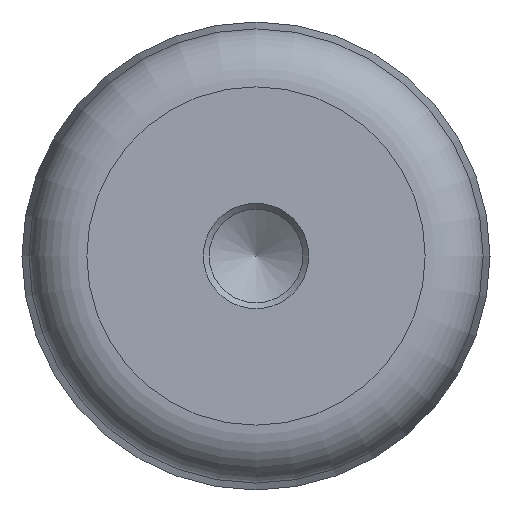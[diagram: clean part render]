
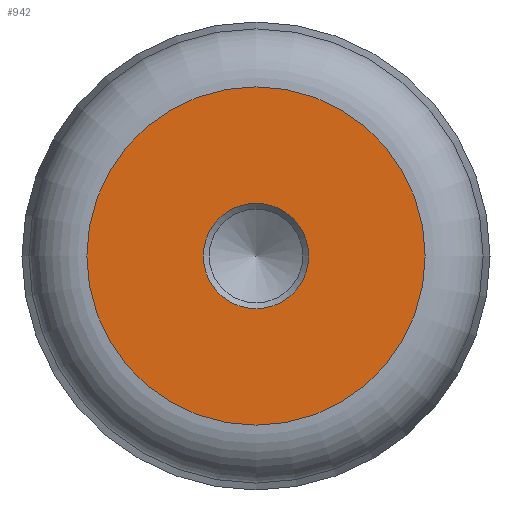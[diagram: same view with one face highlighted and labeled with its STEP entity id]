
A CAD part, left-side view. The second image highlights one B-rep face of the part: STEP entity #942.
In plain terms, the highlighted planar face has unit normal (-1, 0, 0).
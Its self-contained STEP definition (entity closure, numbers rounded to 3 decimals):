
#28=FACE_BOUND('',#149,.T.);
#35=PLANE('',#1035);
#87=FACE_OUTER_BOUND('',#148,.T.);
#148=EDGE_LOOP('',(#620));
#149=EDGE_LOOP('',(#621));
#319=CIRCLE('',#1027,4.5);
#324=CIRCLE('',#1034,14.459);
#387=VERTEX_POINT('',#1474);
#391=VERTEX_POINT('',#1486);
#470=EDGE_CURVE('',#387,#387,#319,.T.);
#477=EDGE_CURVE('',#391,#391,#324,.T.);
#620=ORIENTED_EDGE('',*,*,#477,.F.);
#621=ORIENTED_EDGE('',*,*,#470,.T.);
#942=ADVANCED_FACE('',(#87,#28),#35,.T.);
#1027=AXIS2_PLACEMENT_3D('',#1475,#1169,#1170);
#1034=AXIS2_PLACEMENT_3D('',#1488,#1185,#1186);
#1035=AXIS2_PLACEMENT_3D('',#1489,#1187,#1188);
#1169=DIRECTION('center_axis',(1.,0.,0.));
#1170=DIRECTION('ref_axis',(0.,0.,1.));
#1185=DIRECTION('center_axis',(1.,0.,0.));
#1186=DIRECTION('ref_axis',(0.,-1.,0.));
#1187=DIRECTION('center_axis',(-1.,0.,0.));
#1188=DIRECTION('ref_axis',(0.,0.,1.));
#1474=CARTESIAN_POINT('',(0.,0.,-4.5));
#1475=CARTESIAN_POINT('Origin',(0.,0.,0.));
#1486=CARTESIAN_POINT('',(0.,0.,14.459));
#1488=CARTESIAN_POINT('Origin',(0.,0.,0.));
#1489=CARTESIAN_POINT('Origin',(0.,18.805,0.));
